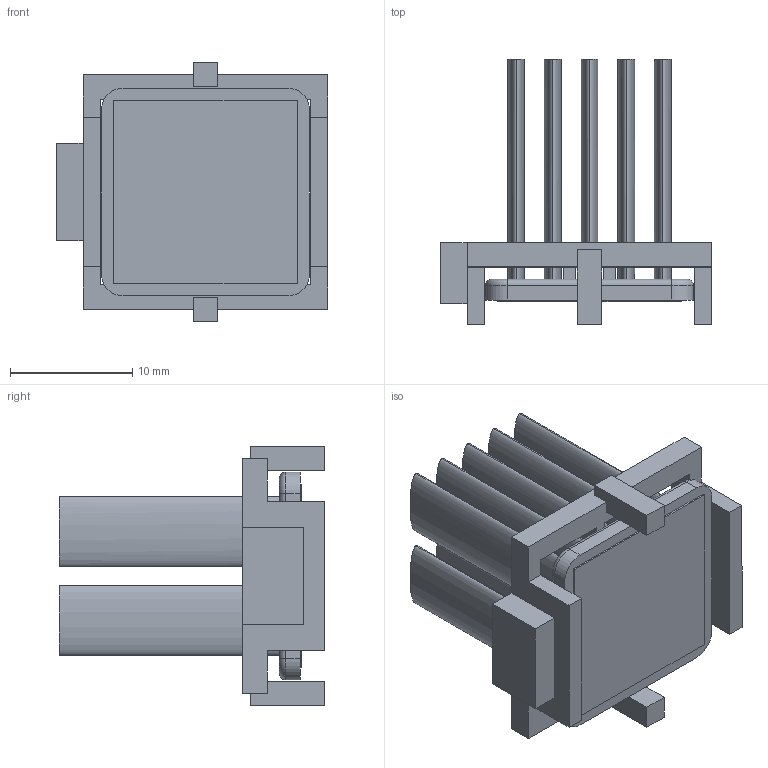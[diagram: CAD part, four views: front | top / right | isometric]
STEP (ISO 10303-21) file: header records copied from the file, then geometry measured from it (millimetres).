
FILE_DESCRIPTION (( 'STEP AP214' ), '1' );
FILE_NAME ('INM17001-20W-1.7Y.STEP', '2023-03-01T23:07:05', ( '' ), ( '' ), 'SwSTEP 2.0', 'SolidWorks 2020', '' );
FILE_SCHEMA (( 'AUTOMOTIVE_DESIGN' ));
Length unit declared in the file: millimetre
Products named in the file (1): INM17001-20W-1.7Y
Bounding box: 22.2 x 21.7 x 21.2 mm (x, y, z)
Volume: 2210.8 mm3; surface area: 4359.7 mm2
Topology: 3 solids, 3 shells, 99 faces, 244 edges, 160 vertices
Faces by surface type: plane 67, bspline 20, cylinder 8, torus 4
Entity records: 4079 total; most frequent: CARTESIAN_POINT 764, ORIENTED_EDGE 488, DIRECTION 384, EDGE_CURVE 244, LINE 184, VECTOR 184, VERTEX_POINT 160, EDGE_LOOP 110
